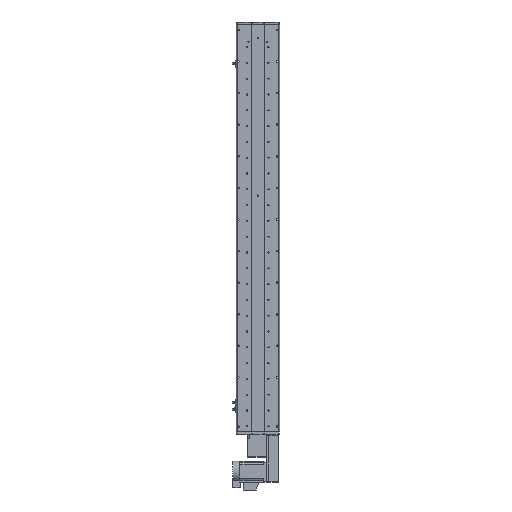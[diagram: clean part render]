
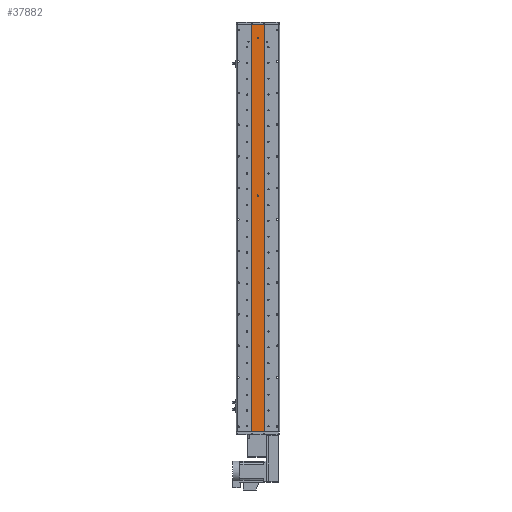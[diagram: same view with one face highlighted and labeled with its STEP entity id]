
A CAD part, front view. The second image highlights one B-rep face of the part: STEP entity #37882.
In plain terms, the highlighted planar face has unit normal (0, -1, 0).
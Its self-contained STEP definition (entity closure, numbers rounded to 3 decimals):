
#649 = CARTESIAN_POINT ( 'NONE',  ( 0., 1., 123.5 ) ) ;
#913 = VECTOR ( 'NONE', #64115, 1000. ) ;
#2889 = ORIENTED_EDGE ( 'NONE', *, *, #29060, .T. ) ;
#3003 = FACE_BOUND ( 'NONE', #17945, .T. ) ;
#3182 = EDGE_CURVE ( 'NONE', #3737, #32719, #34390, .T. ) ;
#3371 = CARTESIAN_POINT ( 'NONE',  ( 0., 1., 726.5 ) ) ;
#3737 = VERTEX_POINT ( 'NONE', #52855 ) ;
#5417 = AXIS2_PLACEMENT_3D ( 'NONE', #17539, #53881, #22739 ) ;
#5698 = CARTESIAN_POINT ( 'NONE',  ( 25., 1., 773.5 ) ) ;
#5868 = DIRECTION ( 'NONE',  ( 0., 0., -1. ) ) ;
#6359 = CIRCLE ( 'NONE', #49697, 3. ) ;
#6505 = DIRECTION ( 'NONE',  ( 0., 1., 0. ) ) ;
#6795 = VECTOR ( 'NONE', #50375, 1000. ) ;
#7011 = ORIENTED_EDGE ( 'NONE', *, *, #66140, .F. ) ;
#8521 = EDGE_LOOP ( 'NONE', ( #2889, #57774, #48685, #19274 ) ) ;
#9249 = EDGE_LOOP ( 'NONE', ( #43743, #30091 ) ) ;
#11235 = CARTESIAN_POINT ( 'NONE',  ( 0., 1., 723.5 ) ) ;
#11717 = AXIS2_PLACEMENT_3D ( 'NONE', #11235, #47558, #16441 ) ;
#12589 = VERTEX_POINT ( 'NONE', #25596 ) ;
#14027 = CARTESIAN_POINT ( 'NONE',  ( 25., 1., 773.5 ) ) ;
#14322 = VERTEX_POINT ( 'NONE', #57511 ) ;
#14693 = LINE ( 'NONE', #48464, #913 ) ;
#16441 = DIRECTION ( 'NONE',  ( 0., 0., -1. ) ) ;
#17539 = CARTESIAN_POINT ( 'NONE',  ( 0., 1., 723.5 ) ) ;
#17945 = EDGE_LOOP ( 'NONE', ( #23764, #7011 ) ) ;
#19274 = ORIENTED_EDGE ( 'NONE', *, *, #53019, .T. ) ;
#19498 = VERTEX_POINT ( 'NONE', #54655 ) ;
#21408 = CIRCLE ( 'NONE', #5417, 3. ) ;
#21674 = CARTESIAN_POINT ( 'NONE',  ( 25., 1., 773.5 ) ) ;
#22195 = AXIS2_PLACEMENT_3D ( 'NONE', #61819, #30669, #67011 ) ;
#22739 = DIRECTION ( 'NONE',  ( 0., 0., -1. ) ) ;
#23764 = ORIENTED_EDGE ( 'NONE', *, *, #27272, .F. ) ;
#24621 = LINE ( 'NONE', #5698, #52280 ) ;
#25596 = CARTESIAN_POINT ( 'NONE',  ( -25., 1., -773.5 ) ) ;
#25915 = CIRCLE ( 'NONE', #22195, 3. ) ;
#27180 = CARTESIAN_POINT ( 'NONE',  ( -25., 1., 773.5 ) ) ;
#27272 = EDGE_CURVE ( 'NONE', #14322, #53196, #64537, .T. ) ;
#29060 = EDGE_CURVE ( 'NONE', #12589, #32719, #14693, .T. ) ;
#30091 = ORIENTED_EDGE ( 'NONE', *, *, #64001, .F. ) ;
#30669 = DIRECTION ( 'NONE',  ( 0., -1., 0. ) ) ;
#31287 = DIRECTION ( 'NONE',  ( 1., 0., 0. ) ) ;
#32719 = VERTEX_POINT ( 'NONE', #38408 ) ;
#33691 = LINE ( 'NONE', #27180, #59719 ) ;
#34390 = LINE ( 'NONE', #14027, #6795 ) ;
#35032 = EDGE_CURVE ( 'NONE', #19498, #3737, #24621, .T. ) ;
#36970 = DIRECTION ( 'NONE',  ( 0., -1., 0. ) ) ;
#37882 = ADVANCED_FACE ( 'NONE', ( #53322, #3003, #54966 ), #63480, .F. ) ;
#38408 = CARTESIAN_POINT ( 'NONE',  ( 25., 1., -773.5 ) ) ;
#42830 = DIRECTION ( 'NONE',  ( 0., 0., 1. ) ) ;
#43743 = ORIENTED_EDGE ( 'NONE', *, *, #46880, .F. ) ;
#46557 = CARTESIAN_POINT ( 'NONE',  ( 0., 1., 120.5 ) ) ;
#46880 = EDGE_CURVE ( 'NONE', #54431, #62137, #25915, .T. ) ;
#47558 = DIRECTION ( 'NONE',  ( 0., -1., 0. ) ) ;
#48464 = CARTESIAN_POINT ( 'NONE',  ( 25., 1., -773.5 ) ) ;
#48685 = ORIENTED_EDGE ( 'NONE', *, *, #35032, .F. ) ;
#49697 = AXIS2_PLACEMENT_3D ( 'NONE', #649, #36970, #5868 ) ;
#50375 = DIRECTION ( 'NONE',  ( 0., 0., -1. ) ) ;
#52280 = VECTOR ( 'NONE', #31287, 1000. ) ;
#52855 = CARTESIAN_POINT ( 'NONE',  ( 25., 1., 773.5 ) ) ;
#53019 = EDGE_CURVE ( 'NONE', #19498, #12589, #33691, .T. ) ;
#53196 = VERTEX_POINT ( 'NONE', #3371 ) ;
#53322 = FACE_BOUND ( 'NONE', #9249, .T. ) ;
#53881 = DIRECTION ( 'NONE',  ( 0., -1., 0. ) ) ;
#54431 = VERTEX_POINT ( 'NONE', #46557 ) ;
#54655 = CARTESIAN_POINT ( 'NONE',  ( -25., 1., 773.5 ) ) ;
#54955 = CARTESIAN_POINT ( 'NONE',  ( 0., 1., 126.5 ) ) ;
#54966 = FACE_OUTER_BOUND ( 'NONE', #8521, .T. ) ;
#57511 = CARTESIAN_POINT ( 'NONE',  ( 0., 1., 720.5 ) ) ;
#57774 = ORIENTED_EDGE ( 'NONE', *, *, #3182, .F. ) ;
#58323 = DIRECTION ( 'NONE',  ( 0., 0., -1. ) ) ;
#59719 = VECTOR ( 'NONE', #58323, 1000. ) ;
#61819 = CARTESIAN_POINT ( 'NONE',  ( 0., 1., 123.5 ) ) ;
#62137 = VERTEX_POINT ( 'NONE', #54955 ) ;
#62997 = AXIS2_PLACEMENT_3D ( 'NONE', #21674, #6505, #42830 ) ;
#63480 = PLANE ( 'NONE',  #62997 ) ;
#64001 = EDGE_CURVE ( 'NONE', #62137, #54431, #6359, .T. ) ;
#64115 = DIRECTION ( 'NONE',  ( 1., 0., 0. ) ) ;
#64537 = CIRCLE ( 'NONE', #11717, 3. ) ;
#66140 = EDGE_CURVE ( 'NONE', #53196, #14322, #21408, .T. ) ;
#67011 = DIRECTION ( 'NONE',  ( 0., 0., -1. ) ) ;
